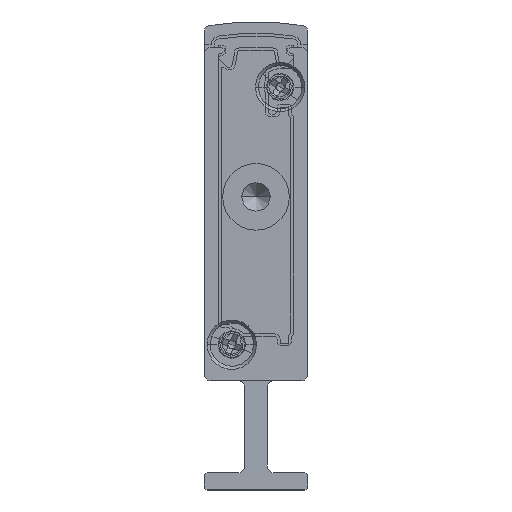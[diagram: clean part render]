
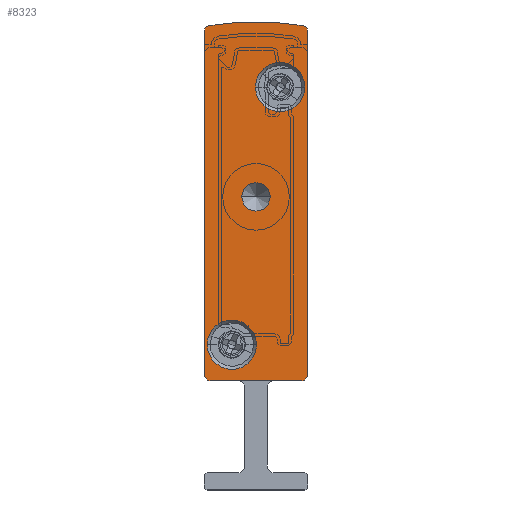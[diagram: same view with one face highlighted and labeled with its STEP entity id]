
A CAD part, front view. The second image highlights one B-rep face of the part: STEP entity #8323.
In plain terms, the highlighted planar face has unit normal (0, -1, 0).
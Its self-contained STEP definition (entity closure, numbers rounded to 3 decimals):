
#233 = ORIENTED_EDGE ( 'NONE', *, *, #27339, .F. ) ;
#634 = DIRECTION ( 'NONE',  ( 0., 1., 0. ) ) ;
#874 = ORIENTED_EDGE ( 'NONE', *, *, #24686, .F. ) ;
#915 = VECTOR ( 'NONE', #25583, 1000. ) ;
#1323 = VERTEX_POINT ( 'NONE', #14515 ) ;
#1337 = ORIENTED_EDGE ( 'NONE', *, *, #23360, .F. ) ;
#2024 = DIRECTION ( 'NONE',  ( -1., 0., 0. ) ) ;
#2056 = CARTESIAN_POINT ( 'NONE',  ( 4.5, -2.5, 25.5 ) ) ;
#2193 = LINE ( 'NONE', #2495, #27977 ) ;
#2487 = CIRCLE ( 'NONE', #5984, 0.5 ) ;
#2495 = CARTESIAN_POINT ( 'NONE',  ( 9., -2.5, 39.902 ) ) ;
#2645 = ORIENTED_EDGE ( 'NONE', *, *, #20588, .F. ) ;
#3165 = EDGE_CURVE ( 'NONE', #32042, #32411, #8775, .T. ) ;
#3350 = VERTEX_POINT ( 'NONE', #7687 ) ;
#3499 = DIRECTION ( 'NONE',  ( 0., 1., 0. ) ) ;
#3569 = CARTESIAN_POINT ( 'NONE',  ( 6.6, -2.5, 35.05 ) ) ;
#3823 = DIRECTION ( 'NONE',  ( -1., 0., 0. ) ) ;
#3915 = CARTESIAN_POINT ( 'NONE',  ( 9., -2.5, 39.902 ) ) ;
#4671 = CIRCLE ( 'NONE', #8915, 0.5 ) ;
#4762 = FACE_BOUND ( 'NONE', #18601, .T. ) ;
#5519 = DIRECTION ( 'NONE',  ( 1., 0., 0. ) ) ;
#5572 = AXIS2_PLACEMENT_3D ( 'NONE', #32019, #6449, #21892 ) ;
#5740 = CARTESIAN_POINT ( 'NONE',  ( 2.4, -2.5, 12.65 ) ) ;
#5981 = CARTESIAN_POINT ( 'NONE',  ( 0.25, -2.5, 12.65 ) ) ;
#5984 = AXIS2_PLACEMENT_3D ( 'NONE', #31447, #634, #24035 ) ;
#6052 = EDGE_CURVE ( 'NONE', #21132, #32341, #13194, .T. ) ;
#6064 = DIRECTION ( 'NONE',  ( -1., 0., 0. ) ) ;
#6438 = DIRECTION ( 'NONE',  ( 0., 1., 0. ) ) ;
#6449 = DIRECTION ( 'NONE',  ( 0., -1., 0. ) ) ;
#6787 = FACE_OUTER_BOUND ( 'NONE', #28206, .T. ) ;
#6954 = VERTEX_POINT ( 'NONE', #15730 ) ;
#7043 = DIRECTION ( 'NONE',  ( -1., 0., 0. ) ) ;
#7324 = ORIENTED_EDGE ( 'NONE', *, *, #12593, .F. ) ;
#7561 = CARTESIAN_POINT ( 'NONE',  ( 0., -2.5, 39.902 ) ) ;
#7687 = CARTESIAN_POINT ( 'NONE',  ( 9., -2.5, 10. ) ) ;
#7748 = LINE ( 'NONE', #7561, #915 ) ;
#7796 = DIRECTION ( 'NONE',  ( 0., -1., 0. ) ) ;
#8084 = ORIENTED_EDGE ( 'NONE', *, *, #31711, .F. ) ;
#8144 = EDGE_CURVE ( 'NONE', #6954, #21282, #22090, .T. ) ;
#8160 = CARTESIAN_POINT ( 'NONE',  ( 8.5, -2.5, 10. ) ) ;
#8323 = ADVANCED_FACE ( 'NONE', ( #4762, #32124, #6787, #10763 ), #24742, .F. ) ;
#8634 = CARTESIAN_POINT ( 'NONE',  ( 4.55, -2.5, 12.65 ) ) ;
#8685 = EDGE_CURVE ( 'NONE', #15799, #16109, #9202, .T. ) ;
#8775 = LINE ( 'NONE', #8800, #18789 ) ;
#8788 = ORIENTED_EDGE ( 'NONE', *, *, #14707, .F. ) ;
#8800 = CARTESIAN_POINT ( 'NONE',  ( 0.5, -2.5, 9.5 ) ) ;
#8915 = AXIS2_PLACEMENT_3D ( 'NONE', #8160, #18204, #23238 ) ;
#9202 = CIRCLE ( 'NONE', #33136, 2.15 ) ;
#9484 = AXIS2_PLACEMENT_3D ( 'NONE', #14066, #6438, #27055 ) ;
#10514 = CARTESIAN_POINT ( 'NONE',  ( 3.25, -2.5, 25.5 ) ) ;
#10587 = ORIENTED_EDGE ( 'NONE', *, *, #20589, .T. ) ;
#10763 = FACE_BOUND ( 'NONE', #31015, .T. ) ;
#10810 = AXIS2_PLACEMENT_3D ( 'NONE', #3569, #18808, #24071 ) ;
#11929 = VERTEX_POINT ( 'NONE', #12632 ) ;
#12593 = EDGE_CURVE ( 'NONE', #21282, #6954, #13525, .T. ) ;
#12632 = CARTESIAN_POINT ( 'NONE',  ( 0., -2.5, 10. ) ) ;
#13194 = CIRCLE ( 'NONE', #30181, 0.5 ) ;
#13467 = CIRCLE ( 'NONE', #15769, 0.5 ) ;
#13525 = CIRCLE ( 'NONE', #5572, 2.15 ) ;
#13591 = CARTESIAN_POINT ( 'NONE',  ( 0., -2.5, 39.902 ) ) ;
#14066 = CARTESIAN_POINT ( 'NONE',  ( 4.5, -2.5, 25.5 ) ) ;
#14179 = VERTEX_POINT ( 'NONE', #23628 ) ;
#14190 = ORIENTED_EDGE ( 'NONE', *, *, #32515, .F. ) ;
#14515 = CARTESIAN_POINT ( 'NONE',  ( 8.592, -2.5, 40.393 ) ) ;
#14707 = EDGE_CURVE ( 'NONE', #16109, #15799, #14911, .T. ) ;
#14762 = CARTESIAN_POINT ( 'NONE',  ( 0.5, -2.5, 39.902 ) ) ;
#14911 = CIRCLE ( 'NONE', #33070, 2.15 ) ;
#15730 = CARTESIAN_POINT ( 'NONE',  ( 8.75, -2.5, 35.05 ) ) ;
#15769 = AXIS2_PLACEMENT_3D ( 'NONE', #18851, #3499, #6064 ) ;
#15799 = VERTEX_POINT ( 'NONE', #8634 ) ;
#16109 = VERTEX_POINT ( 'NONE', #5981 ) ;
#16179 = EDGE_LOOP ( 'NONE', ( #32184, #8788 ) ) ;
#18204 = DIRECTION ( 'NONE',  ( 0., 1., 0. ) ) ;
#18601 = EDGE_LOOP ( 'NONE', ( #19423, #7324 ) ) ;
#18789 = VECTOR ( 'NONE', #2024, 1000. ) ;
#18808 = DIRECTION ( 'NONE',  ( 0., -1., 0. ) ) ;
#18851 = CARTESIAN_POINT ( 'NONE',  ( 8.5, -2.5, 39.902 ) ) ;
#19293 = CIRCLE ( 'NONE', #24351, 1.25 ) ;
#19423 = ORIENTED_EDGE ( 'NONE', *, *, #8144, .F. ) ;
#19793 = AXIS2_PLACEMENT_3D ( 'NONE', #24958, #30052, #22457 ) ;
#19902 = DIRECTION ( 'NONE',  ( 0., 1., 0. ) ) ;
#20012 = VERTEX_POINT ( 'NONE', #3915 ) ;
#20383 = ORIENTED_EDGE ( 'NONE', *, *, #6052, .F. ) ;
#20588 = EDGE_CURVE ( 'NONE', #32411, #11929, #2487, .T. ) ;
#20589 = EDGE_CURVE ( 'NONE', #30302, #14179, #29126, .T. ) ;
#20786 = EDGE_CURVE ( 'NONE', #14179, #30302, #19293, .T. ) ;
#21132 = VERTEX_POINT ( 'NONE', #13591 ) ;
#21282 = VERTEX_POINT ( 'NONE', #22281 ) ;
#21892 = DIRECTION ( 'NONE',  ( 1., 0., 0. ) ) ;
#22090 = CIRCLE ( 'NONE', #10810, 2.15 ) ;
#22281 = CARTESIAN_POINT ( 'NONE',  ( 4.45, -2.5, 35.05 ) ) ;
#22457 = DIRECTION ( 'NONE',  ( -1., 0., 0. ) ) ;
#22791 = CARTESIAN_POINT ( 'NONE',  ( 8.5, -2.5, 9.5 ) ) ;
#23053 = CARTESIAN_POINT ( 'NONE',  ( 2.4, -2.5, 12.65 ) ) ;
#23207 = CARTESIAN_POINT ( 'NONE',  ( 0.5, -2.5, 9.5 ) ) ;
#23238 = DIRECTION ( 'NONE',  ( -1., 0., 0. ) ) ;
#23360 = EDGE_CURVE ( 'NONE', #3350, #32042, #4671, .T. ) ;
#23628 = CARTESIAN_POINT ( 'NONE',  ( 5.75, -2.5, 25.5 ) ) ;
#24007 = ORIENTED_EDGE ( 'NONE', *, *, #3165, .F. ) ;
#24035 = DIRECTION ( 'NONE',  ( -1., 0., 0. ) ) ;
#24071 = DIRECTION ( 'NONE',  ( 1., 0., 0. ) ) ;
#24351 = AXIS2_PLACEMENT_3D ( 'NONE', #2056, #19902, #27729 ) ;
#24686 = EDGE_CURVE ( 'NONE', #32341, #1323, #31845, .T. ) ;
#24742 = PLANE ( 'NONE',  #29855 ) ;
#24958 = CARTESIAN_POINT ( 'NONE',  ( 4.5, -2.5, 17.092 ) ) ;
#25583 = DIRECTION ( 'NONE',  ( 0., 0., 1. ) ) ;
#25783 = DIRECTION ( 'NONE',  ( 0., 0., -1. ) ) ;
#26793 = ORIENTED_EDGE ( 'NONE', *, *, #20786, .T. ) ;
#27055 = DIRECTION ( 'NONE',  ( -1., 0., 0. ) ) ;
#27128 = DIRECTION ( 'NONE',  ( 0., 1., 0. ) ) ;
#27339 = EDGE_CURVE ( 'NONE', #1323, #20012, #13467, .T. ) ;
#27643 = DIRECTION ( 'NONE',  ( 0., 1., 0. ) ) ;
#27729 = DIRECTION ( 'NONE',  ( -1., 0., 0. ) ) ;
#27916 = DIRECTION ( 'NONE',  ( 0., -1., 0. ) ) ;
#27961 = CARTESIAN_POINT ( 'NONE',  ( 0.408, -2.5, 40.393 ) ) ;
#27977 = VECTOR ( 'NONE', #25783, 1000. ) ;
#28206 = EDGE_LOOP ( 'NONE', ( #20383, #14190, #2645, #24007, #1337, #8084, #233, #874 ) ) ;
#29126 = CIRCLE ( 'NONE', #9484, 1.25 ) ;
#29855 = AXIS2_PLACEMENT_3D ( 'NONE', #14762, #27643, #7043 ) ;
#30052 = DIRECTION ( 'NONE',  ( 0., 1., 0. ) ) ;
#30181 = AXIS2_PLACEMENT_3D ( 'NONE', #31635, #27128, #3823 ) ;
#30302 = VERTEX_POINT ( 'NONE', #10514 ) ;
#30618 = DIRECTION ( 'NONE',  ( 1., 0., 0. ) ) ;
#31015 = EDGE_LOOP ( 'NONE', ( #10587, #26793 ) ) ;
#31447 = CARTESIAN_POINT ( 'NONE',  ( 0.5, -2.5, 10. ) ) ;
#31635 = CARTESIAN_POINT ( 'NONE',  ( 0.5, -2.5, 39.902 ) ) ;
#31711 = EDGE_CURVE ( 'NONE', #20012, #3350, #2193, .T. ) ;
#31845 = CIRCLE ( 'NONE', #19793, 23.658 ) ;
#32019 = CARTESIAN_POINT ( 'NONE',  ( 6.6, -2.5, 35.05 ) ) ;
#32042 = VERTEX_POINT ( 'NONE', #22791 ) ;
#32124 = FACE_BOUND ( 'NONE', #16179, .T. ) ;
#32184 = ORIENTED_EDGE ( 'NONE', *, *, #8685, .F. ) ;
#32341 = VERTEX_POINT ( 'NONE', #27961 ) ;
#32411 = VERTEX_POINT ( 'NONE', #23207 ) ;
#32515 = EDGE_CURVE ( 'NONE', #11929, #21132, #7748, .T. ) ;
#33070 = AXIS2_PLACEMENT_3D ( 'NONE', #23053, #27916, #30618 ) ;
#33136 = AXIS2_PLACEMENT_3D ( 'NONE', #5740, #7796, #5519 ) ;
